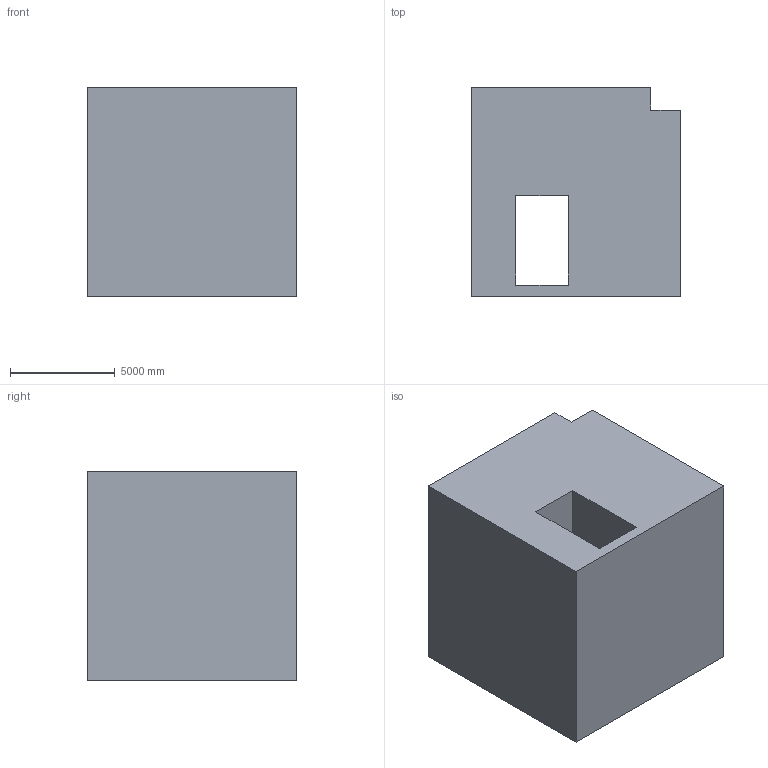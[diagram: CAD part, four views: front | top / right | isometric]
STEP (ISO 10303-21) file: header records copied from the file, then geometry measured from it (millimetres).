
FILE_DESCRIPTION (( 'STEP AP203' ), '1' );
FILE_NAME ('1194.STEP', '2022-08-18T13:07:53', ( 'user' ), ( '' ), 'SwSTEP 2.0', 'SolidWorks 2021', '' );
FILE_SCHEMA (( 'CONFIG_CONTROL_DESIGN' ));
Length unit declared in the file: centimetre
Products named in the file (1): 1194
Bounding box: 10000 x 10000 x 10000 mm (x, y, z)
Volume: 876720612088.3 mm3; surface area: 711451128.5 mm2
Topology: 1 solids, 1 shells, 12 faces, 30 edges, 20 vertices
Faces by surface type: plane 12
Entity records: 435 total; most frequent: CARTESIAN_POINT 63, ORIENTED_EDGE 60, DIRECTION 56, EDGE_CURVE 30, LINE 30, VECTOR 30, VERTEX_POINT 20, EDGE_LOOP 14
